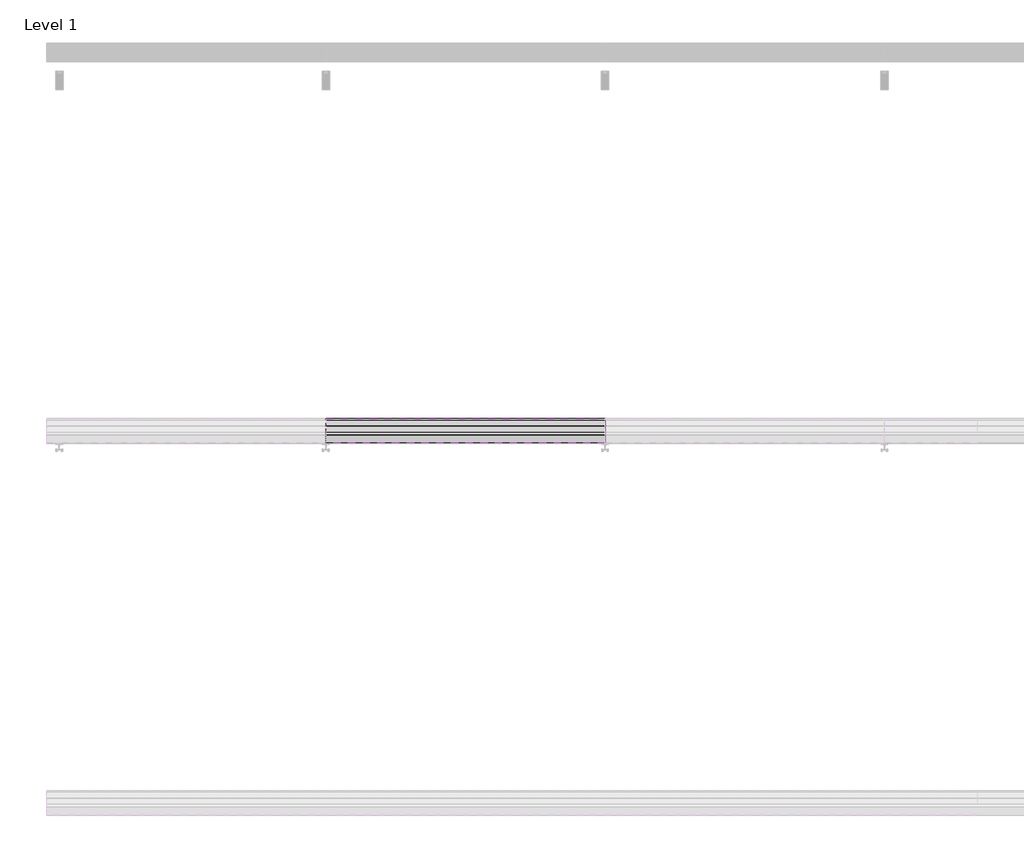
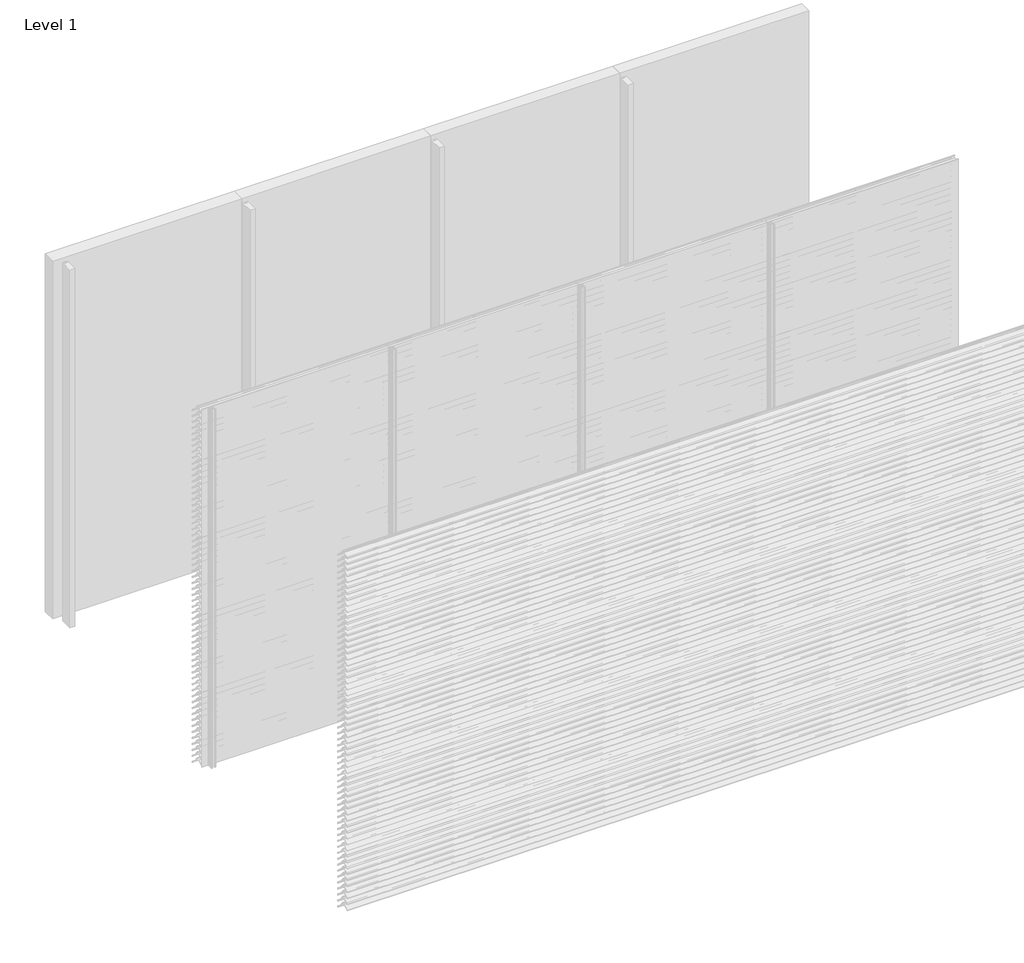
# One storey, part 46 of 173: 18 proxies.
"""IFC4 building model written with IfcOpenShell, lengths in millimetres."""

from ifc_helpers import new_model, si_unit, point, frame, frame_2d, origin, place, context, project, spatial, polyline, circle_curve, trimmed, segment, composite_curve, outline, extrude, element, save

model = new_model("IFC4")

# Units and contexts
model_context = context("Model", 3, world=origin())
ifc_project = project(units=[si_unit("LENGTHUNIT", "METRE", prefix="MILLI")], contexts=[model_context])

# Site, building, storey
site = spatial("IfcSite", under=ifc_project)
building = spatial("IfcBuilding", under=site)
storey = spatial("IfcBuildingStorey", under=building, Name="Level 1", Elevation=0.0)

# Proxies
placement = place(None, origin())
element("IfcBuildingElementProxy", 1, Name="Wall Sweeps", at=placement, inside=storey, context=model_context, shape_type="SweptSolid", body=[
    extrude(outline(composite_curve([segment(polyline([(-41998.0, 1359.1474905), (-41998.0, 1361.6227417)]), True, "CONTINUOUS"), segment(trimmed(circle_curve(frame_2d((-41951.2682172, 1316.2200208)), 65.1557103), [point((-41998.0, 1361.6227417))], [point((-41954.4014323, 1381.3003524))], False, "CARTESIAN"), True, "CONTINUOUS"), segment(polyline([(-41954.4014323, 1381.3003524), (-41934.8315836, 1381.3003524)]), True, "CONTINUOUS"), segment(trimmed(circle_curve(frame_2d((-41732.7329489, 1528.5533172)), 250.0545817), [point((-41934.8315836, 1381.3003524))], [point((-41941.4452143, 1390.8344583))], False, "CARTESIAN"), True, "CONTINUOUS"), segment(trimmed(circle_curve(frame_2d((-41953.2981792, 1385.1737835)), 13.1352966), [point((-41941.4452143, 1390.8344583))], [point((-41953.8171475, 1398.298824))], True, "CARTESIAN"), True, "CONTINUOUS"), segment(polyline([(-41953.8171475, 1398.298824), (-41953.8171475, 1400.0)]), True, "CONTINUOUS"), segment(trimmed(circle_curve(frame_2d((-41953.2981792, 1385.1737835)), 14.8352966), [point((-41953.8171475, 1400.0))], [point((-41939.9637661, 1391.6760487))], False, "CARTESIAN"), True, "CONTINUOUS"), segment(trimmed(circle_curve(frame_2d((-41732.7329489, 1528.5533172)), 248.3545817), [point((-41939.9637661, 1391.6760487))], [point((-41873.8787895, 1324.2059416))], True, "CARTESIAN"), True, "CONTINUOUS"), segment(trimmed(circle_curve(frame_2d((-41883.8147537, 1311.6649442)), 16.0), [point((-41873.8787895, 1324.2059416))], [point((-41867.8648347, 1310.4))], False, "CARTESIAN"), True, "CONTINUOUS"), segment(polyline([(-41867.8648347, 1310.4), (-41869.6712069, 1310.4)]), True, "CONTINUOUS"), segment(trimmed(circle_curve(frame_2d((-41883.8147537, 1311.6649442)), 14.2), [point((-41869.6712069, 1310.4))], [point((-41874.9518628, 1322.7594998))], True, "CARTESIAN"), True, "CONTINUOUS"), segment(trimmed(circle_curve(frame_2d((-41732.7329489, 1528.5533172)), 250.1545817), [point((-41874.9518628, 1322.7594998))], [point((-41933.7064024, 1379.6003524))], False, "CARTESIAN"), True, "CONTINUOUS"), segment(polyline([(-41933.7064024, 1379.6003524), (-41954.3602632, 1379.6003524)]), True, "CONTINUOUS"), segment(trimmed(circle_curve(frame_2d((-41951.2682172, 1316.2200208)), 63.4557103), [point((-41954.3602632, 1379.6003524))], [point((-41998.0, 1359.1474905))], True, "CARTESIAN"), True, "CONTINUOUS")], self_intersect=False)), frame((1500.0, 0.0, 0.0), z_axis=(1.0, 0.0, 0.0), x_axis=(0.0, 1.0, 0.0)), (0.0, 0.0, 1.0), 1500.0),
])
element("IfcBuildingElementProxy", 2, Name="Wall Sweeps", at=placement, inside=storey, context=model_context, shape_type="SweptSolid", body=[
    extrude(outline(composite_curve([segment(polyline([(-41998.0, 1309.1474905), (-41998.0, 1311.6227417)]), True, "CONTINUOUS"), segment(trimmed(circle_curve(frame_2d((-41951.2682172, 1266.2200208)), 65.1557103), [point((-41998.0, 1311.6227417))], [point((-41954.4014323, 1331.3003524))], False, "CARTESIAN"), True, "CONTINUOUS"), segment(polyline([(-41954.4014323, 1331.3003524), (-41934.8315836, 1331.3003524)]), True, "CONTINUOUS"), segment(trimmed(circle_curve(frame_2d((-41732.7329489, 1478.5533172)), 250.0545817), [point((-41934.8315836, 1331.3003524))], [point((-41941.4452143, 1340.8344583))], False, "CARTESIAN"), True, "CONTINUOUS"), segment(trimmed(circle_curve(frame_2d((-41953.2981792, 1335.1737835)), 13.1352966), [point((-41941.4452143, 1340.8344583))], [point((-41953.8171475, 1348.298824))], True, "CARTESIAN"), True, "CONTINUOUS"), segment(polyline([(-41953.8171475, 1348.298824), (-41953.8171475, 1350.0)]), True, "CONTINUOUS"), segment(trimmed(circle_curve(frame_2d((-41953.2981792, 1335.1737835)), 14.8352966), [point((-41953.8171475, 1350.0))], [point((-41939.9637661, 1341.6760487))], False, "CARTESIAN"), True, "CONTINUOUS"), segment(trimmed(circle_curve(frame_2d((-41732.7329489, 1478.5533172)), 248.3545817), [point((-41939.9637661, 1341.6760487))], [point((-41873.8787895, 1274.2059416))], True, "CARTESIAN"), True, "CONTINUOUS"), segment(trimmed(circle_curve(frame_2d((-41883.8147537, 1261.6649442)), 16.0), [point((-41873.8787895, 1274.2059416))], [point((-41867.8648347, 1260.4))], False, "CARTESIAN"), True, "CONTINUOUS"), segment(polyline([(-41867.8648347, 1260.4), (-41869.6712069, 1260.4)]), True, "CONTINUOUS"), segment(trimmed(circle_curve(frame_2d((-41883.8147537, 1261.6649442)), 14.2), [point((-41869.6712069, 1260.4))], [point((-41874.9518628, 1272.7594998))], True, "CARTESIAN"), True, "CONTINUOUS"), segment(trimmed(circle_curve(frame_2d((-41732.7329489, 1478.5533172)), 250.1545817), [point((-41874.9518628, 1272.7594998))], [point((-41933.7064024, 1329.6003524))], False, "CARTESIAN"), True, "CONTINUOUS"), segment(polyline([(-41933.7064024, 1329.6003524), (-41954.3602632, 1329.6003524)]), True, "CONTINUOUS"), segment(trimmed(circle_curve(frame_2d((-41951.2682172, 1266.2200208)), 63.4557103), [point((-41954.3602632, 1329.6003524))], [point((-41998.0, 1309.1474905))], True, "CARTESIAN"), True, "CONTINUOUS")], self_intersect=False)), frame((1500.0, 0.0, 0.0), z_axis=(1.0, 0.0, 0.0), x_axis=(0.0, 1.0, 0.0)), (0.0, 0.0, 1.0), 1500.0),
])
element("IfcBuildingElementProxy", 3, Name="Wall Sweeps", at=placement, inside=storey, context=model_context, shape_type="SweptSolid", body=[
    extrude(outline(composite_curve([segment(polyline([(-41998.0, 1259.1474905), (-41998.0, 1261.6227417)]), True, "CONTINUOUS"), segment(trimmed(circle_curve(frame_2d((-41951.2682172, 1216.2200208)), 65.1557103), [point((-41998.0, 1261.6227417))], [point((-41954.4014323, 1281.3003524))], False, "CARTESIAN"), True, "CONTINUOUS"), segment(polyline([(-41954.4014323, 1281.3003524), (-41934.8315836, 1281.3003524)]), True, "CONTINUOUS"), segment(trimmed(circle_curve(frame_2d((-41732.7329489, 1428.5533172)), 250.0545817), [point((-41934.8315836, 1281.3003524))], [point((-41941.4452143, 1290.8344583))], False, "CARTESIAN"), True, "CONTINUOUS"), segment(trimmed(circle_curve(frame_2d((-41953.2981792, 1285.1737835)), 13.1352966), [point((-41941.4452143, 1290.8344583))], [point((-41953.8171475, 1298.298824))], True, "CARTESIAN"), True, "CONTINUOUS"), segment(polyline([(-41953.8171475, 1298.298824), (-41953.8171475, 1300.0)]), True, "CONTINUOUS"), segment(trimmed(circle_curve(frame_2d((-41953.2981792, 1285.1737835)), 14.8352966), [point((-41953.8171475, 1300.0))], [point((-41939.9637661, 1291.6760487))], False, "CARTESIAN"), True, "CONTINUOUS"), segment(trimmed(circle_curve(frame_2d((-41732.7329489, 1428.5533172)), 248.3545817), [point((-41939.9637661, 1291.6760487))], [point((-41873.8787895, 1224.2059416))], True, "CARTESIAN"), True, "CONTINUOUS"), segment(trimmed(circle_curve(frame_2d((-41883.8147537, 1211.6649442)), 16.0), [point((-41873.8787895, 1224.2059416))], [point((-41867.8648347, 1210.4))], False, "CARTESIAN"), True, "CONTINUOUS"), segment(polyline([(-41867.8648347, 1210.4), (-41869.6712069, 1210.4)]), True, "CONTINUOUS"), segment(trimmed(circle_curve(frame_2d((-41883.8147537, 1211.6649442)), 14.2), [point((-41869.6712069, 1210.4))], [point((-41874.9518628, 1222.7594998))], True, "CARTESIAN"), True, "CONTINUOUS"), segment(trimmed(circle_curve(frame_2d((-41732.7329489, 1428.5533172)), 250.1545817), [point((-41874.9518628, 1222.7594998))], [point((-41933.7064024, 1279.6003524))], False, "CARTESIAN"), True, "CONTINUOUS"), segment(polyline([(-41933.7064024, 1279.6003524), (-41954.3602632, 1279.6003524)]), True, "CONTINUOUS"), segment(trimmed(circle_curve(frame_2d((-41951.2682172, 1216.2200208)), 63.4557103), [point((-41954.3602632, 1279.6003524))], [point((-41998.0, 1259.1474905))], True, "CARTESIAN"), True, "CONTINUOUS")], self_intersect=False)), frame((1500.0, 0.0, 0.0), z_axis=(1.0, 0.0, 0.0), x_axis=(0.0, 1.0, 0.0)), (0.0, 0.0, 1.0), 1500.0),
])
element("IfcBuildingElementProxy", 4, Name="Wall Sweeps", at=placement, inside=storey, context=model_context, shape_type="SweptSolid", body=[
    extrude(outline(composite_curve([segment(polyline([(-41998.0, 1209.1474905), (-41998.0, 1211.6227417)]), True, "CONTINUOUS"), segment(trimmed(circle_curve(frame_2d((-41951.2682172, 1166.2200208)), 65.1557103), [point((-41998.0, 1211.6227417))], [point((-41954.4014323, 1231.3003524))], False, "CARTESIAN"), True, "CONTINUOUS"), segment(polyline([(-41954.4014323, 1231.3003524), (-41934.8315836, 1231.3003524)]), True, "CONTINUOUS"), segment(trimmed(circle_curve(frame_2d((-41732.7329489, 1378.5533172)), 250.0545817), [point((-41934.8315836, 1231.3003524))], [point((-41941.4452143, 1240.8344583))], False, "CARTESIAN"), True, "CONTINUOUS"), segment(trimmed(circle_curve(frame_2d((-41953.2981792, 1235.1737835)), 13.1352966), [point((-41941.4452143, 1240.8344583))], [point((-41953.8171475, 1248.298824))], True, "CARTESIAN"), True, "CONTINUOUS"), segment(polyline([(-41953.8171475, 1248.298824), (-41953.8171475, 1250.0)]), True, "CONTINUOUS"), segment(trimmed(circle_curve(frame_2d((-41953.2981792, 1235.1737835)), 14.8352966), [point((-41953.8171475, 1250.0))], [point((-41939.9637661, 1241.6760487))], False, "CARTESIAN"), True, "CONTINUOUS"), segment(trimmed(circle_curve(frame_2d((-41732.7329489, 1378.5533172)), 248.3545817), [point((-41939.9637661, 1241.6760487))], [point((-41873.8787895, 1174.2059416))], True, "CARTESIAN"), True, "CONTINUOUS"), segment(trimmed(circle_curve(frame_2d((-41883.8147537, 1161.6649442)), 16.0), [point((-41873.8787895, 1174.2059416))], [point((-41867.8648347, 1160.4))], False, "CARTESIAN"), True, "CONTINUOUS"), segment(polyline([(-41867.8648347, 1160.4), (-41869.6712069, 1160.4)]), True, "CONTINUOUS"), segment(trimmed(circle_curve(frame_2d((-41883.8147537, 1161.6649442)), 14.2), [point((-41869.6712069, 1160.4))], [point((-41874.9518628, 1172.7594998))], True, "CARTESIAN"), True, "CONTINUOUS"), segment(trimmed(circle_curve(frame_2d((-41732.7329489, 1378.5533172)), 250.1545817), [point((-41874.9518628, 1172.7594998))], [point((-41933.7064024, 1229.6003524))], False, "CARTESIAN"), True, "CONTINUOUS"), segment(polyline([(-41933.7064024, 1229.6003524), (-41954.3602632, 1229.6003524)]), True, "CONTINUOUS"), segment(trimmed(circle_curve(frame_2d((-41951.2682172, 1166.2200208)), 63.4557103), [point((-41954.3602632, 1229.6003524))], [point((-41998.0, 1209.1474905))], True, "CARTESIAN"), True, "CONTINUOUS")], self_intersect=False)), frame((1500.0, 0.0, 0.0), z_axis=(1.0, 0.0, 0.0), x_axis=(0.0, 1.0, 0.0)), (0.0, 0.0, 1.0), 1500.0),
])
element("IfcBuildingElementProxy", 5, Name="Wall Sweeps", at=placement, inside=storey, context=model_context, shape_type="SweptSolid", body=[
    extrude(outline(composite_curve([segment(polyline([(-41998.0, 1159.1474905), (-41998.0, 1161.6227417)]), True, "CONTINUOUS"), segment(trimmed(circle_curve(frame_2d((-41951.2682172, 1116.2200208)), 65.1557103), [point((-41998.0, 1161.6227417))], [point((-41954.4014323, 1181.3003524))], False, "CARTESIAN"), True, "CONTINUOUS"), segment(polyline([(-41954.4014323, 1181.3003524), (-41934.8315836, 1181.3003524)]), True, "CONTINUOUS"), segment(trimmed(circle_curve(frame_2d((-41732.7329489, 1328.5533172)), 250.0545817), [point((-41934.8315836, 1181.3003524))], [point((-41941.4452143, 1190.8344583))], False, "CARTESIAN"), True, "CONTINUOUS"), segment(trimmed(circle_curve(frame_2d((-41953.2981792, 1185.1737835)), 13.1352966), [point((-41941.4452143, 1190.8344583))], [point((-41953.8171475, 1198.298824))], True, "CARTESIAN"), True, "CONTINUOUS"), segment(polyline([(-41953.8171475, 1198.298824), (-41953.8171475, 1200.0)]), True, "CONTINUOUS"), segment(trimmed(circle_curve(frame_2d((-41953.2981792, 1185.1737835)), 14.8352966), [point((-41953.8171475, 1200.0))], [point((-41939.9637661, 1191.6760487))], False, "CARTESIAN"), True, "CONTINUOUS"), segment(trimmed(circle_curve(frame_2d((-41732.7329489, 1328.5533172)), 248.3545817), [point((-41939.9637661, 1191.6760487))], [point((-41873.8787895, 1124.2059416))], True, "CARTESIAN"), True, "CONTINUOUS"), segment(trimmed(circle_curve(frame_2d((-41883.8147537, 1111.6649442)), 16.0), [point((-41873.8787895, 1124.2059416))], [point((-41867.8648347, 1110.4))], False, "CARTESIAN"), True, "CONTINUOUS"), segment(polyline([(-41867.8648347, 1110.4), (-41869.6712069, 1110.4)]), True, "CONTINUOUS"), segment(trimmed(circle_curve(frame_2d((-41883.8147537, 1111.6649442)), 14.2), [point((-41869.6712069, 1110.4))], [point((-41874.9518628, 1122.7594998))], True, "CARTESIAN"), True, "CONTINUOUS"), segment(trimmed(circle_curve(frame_2d((-41732.7329489, 1328.5533172)), 250.1545817), [point((-41874.9518628, 1122.7594998))], [point((-41933.7064024, 1179.6003524))], False, "CARTESIAN"), True, "CONTINUOUS"), segment(polyline([(-41933.7064024, 1179.6003524), (-41954.3602632, 1179.6003524)]), True, "CONTINUOUS"), segment(trimmed(circle_curve(frame_2d((-41951.2682172, 1116.2200208)), 63.4557103), [point((-41954.3602632, 1179.6003524))], [point((-41998.0, 1159.1474905))], True, "CARTESIAN"), True, "CONTINUOUS")], self_intersect=False)), frame((1500.0, 0.0, 0.0), z_axis=(1.0, 0.0, 0.0), x_axis=(0.0, 1.0, 0.0)), (0.0, 0.0, 1.0), 1500.0),
])
element("IfcBuildingElementProxy", 6, Name="Wall Sweeps", at=placement, inside=storey, context=model_context, shape_type="SweptSolid", body=[
    extrude(outline(composite_curve([segment(polyline([(-41998.0, 1109.1474905), (-41998.0, 1111.6227417)]), True, "CONTINUOUS"), segment(trimmed(circle_curve(frame_2d((-41951.2682172, 1066.2200208)), 65.1557103), [point((-41998.0, 1111.6227417))], [point((-41954.4014323, 1131.3003524))], False, "CARTESIAN"), True, "CONTINUOUS"), segment(polyline([(-41954.4014323, 1131.3003524), (-41934.8315836, 1131.3003524)]), True, "CONTINUOUS"), segment(trimmed(circle_curve(frame_2d((-41732.7329489, 1278.5533172)), 250.0545817), [point((-41934.8315836, 1131.3003524))], [point((-41941.4452143, 1140.8344583))], False, "CARTESIAN"), True, "CONTINUOUS"), segment(trimmed(circle_curve(frame_2d((-41953.2981792, 1135.1737835)), 13.1352966), [point((-41941.4452143, 1140.8344583))], [point((-41953.8171475, 1148.298824))], True, "CARTESIAN"), True, "CONTINUOUS"), segment(polyline([(-41953.8171475, 1148.298824), (-41953.8171475, 1150.0)]), True, "CONTINUOUS"), segment(trimmed(circle_curve(frame_2d((-41953.2981792, 1135.1737835)), 14.8352966), [point((-41953.8171475, 1150.0))], [point((-41939.9637661, 1141.6760487))], False, "CARTESIAN"), True, "CONTINUOUS"), segment(trimmed(circle_curve(frame_2d((-41732.7329489, 1278.5533172)), 248.3545817), [point((-41939.9637661, 1141.6760487))], [point((-41873.8787895, 1074.2059416))], True, "CARTESIAN"), True, "CONTINUOUS"), segment(trimmed(circle_curve(frame_2d((-41883.8147537, 1061.6649442)), 16.0), [point((-41873.8787895, 1074.2059416))], [point((-41867.8648347, 1060.4))], False, "CARTESIAN"), True, "CONTINUOUS"), segment(polyline([(-41867.8648347, 1060.4), (-41869.6712069, 1060.4)]), True, "CONTINUOUS"), segment(trimmed(circle_curve(frame_2d((-41883.8147537, 1061.6649442)), 14.2), [point((-41869.6712069, 1060.4))], [point((-41874.9518628, 1072.7594998))], True, "CARTESIAN"), True, "CONTINUOUS"), segment(trimmed(circle_curve(frame_2d((-41732.7329489, 1278.5533172)), 250.1545817), [point((-41874.9518628, 1072.7594998))], [point((-41933.7064024, 1129.6003524))], False, "CARTESIAN"), True, "CONTINUOUS"), segment(polyline([(-41933.7064024, 1129.6003524), (-41954.3602632, 1129.6003524)]), True, "CONTINUOUS"), segment(trimmed(circle_curve(frame_2d((-41951.2682172, 1066.2200208)), 63.4557103), [point((-41954.3602632, 1129.6003524))], [point((-41998.0, 1109.1474905))], True, "CARTESIAN"), True, "CONTINUOUS")], self_intersect=False)), frame((1500.0, 0.0, 0.0), z_axis=(1.0, 0.0, 0.0), x_axis=(0.0, 1.0, 0.0)), (0.0, 0.0, 1.0), 1500.0),
])
element("IfcBuildingElementProxy", 7, Name="Wall Sweeps", at=placement, inside=storey, context=model_context, shape_type="SweptSolid", body=[
    extrude(outline(composite_curve([segment(polyline([(-41998.0, 1059.1474905), (-41998.0, 1061.6227417)]), True, "CONTINUOUS"), segment(trimmed(circle_curve(frame_2d((-41951.2682172, 1016.2200208)), 65.1557103), [point((-41998.0, 1061.6227417))], [point((-41954.4014323, 1081.3003524))], False, "CARTESIAN"), True, "CONTINUOUS"), segment(polyline([(-41954.4014323, 1081.3003524), (-41934.8315836, 1081.3003524)]), True, "CONTINUOUS"), segment(trimmed(circle_curve(frame_2d((-41732.7329489, 1228.5533172)), 250.0545817), [point((-41934.8315836, 1081.3003524))], [point((-41941.4452143, 1090.8344583))], False, "CARTESIAN"), True, "CONTINUOUS"), segment(trimmed(circle_curve(frame_2d((-41953.2981792, 1085.1737835)), 13.1352966), [point((-41941.4452143, 1090.8344583))], [point((-41953.8171475, 1098.298824))], True, "CARTESIAN"), True, "CONTINUOUS"), segment(polyline([(-41953.8171475, 1098.298824), (-41953.8171475, 1100.0)]), True, "CONTINUOUS"), segment(trimmed(circle_curve(frame_2d((-41953.2981792, 1085.1737835)), 14.8352966), [point((-41953.8171475, 1100.0))], [point((-41939.9637661, 1091.6760487))], False, "CARTESIAN"), True, "CONTINUOUS"), segment(trimmed(circle_curve(frame_2d((-41732.7329489, 1228.5533172)), 248.3545817), [point((-41939.9637661, 1091.6760487))], [point((-41873.8787895, 1024.2059416))], True, "CARTESIAN"), True, "CONTINUOUS"), segment(trimmed(circle_curve(frame_2d((-41883.8147537, 1011.6649442)), 16.0), [point((-41873.8787895, 1024.2059416))], [point((-41867.8648347, 1010.4))], False, "CARTESIAN"), True, "CONTINUOUS"), segment(polyline([(-41867.8648347, 1010.4), (-41869.6712069, 1010.4)]), True, "CONTINUOUS"), segment(trimmed(circle_curve(frame_2d((-41883.8147537, 1011.6649442)), 14.2), [point((-41869.6712069, 1010.4))], [point((-41874.9518628, 1022.7594998))], True, "CARTESIAN"), True, "CONTINUOUS"), segment(trimmed(circle_curve(frame_2d((-41732.7329489, 1228.5533172)), 250.1545817), [point((-41874.9518628, 1022.7594998))], [point((-41933.7064024, 1079.6003524))], False, "CARTESIAN"), True, "CONTINUOUS"), segment(polyline([(-41933.7064024, 1079.6003524), (-41954.3602632, 1079.6003524)]), True, "CONTINUOUS"), segment(trimmed(circle_curve(frame_2d((-41951.2682172, 1016.2200208)), 63.4557103), [point((-41954.3602632, 1079.6003524))], [point((-41998.0, 1059.1474905))], True, "CARTESIAN"), True, "CONTINUOUS")], self_intersect=False)), frame((1500.0, 0.0, 0.0), z_axis=(1.0, 0.0, 0.0), x_axis=(0.0, 1.0, 0.0)), (0.0, 0.0, 1.0), 1500.0),
])
element("IfcBuildingElementProxy", 8, Name="Wall Sweeps", at=placement, inside=storey, context=model_context, shape_type="SweptSolid", body=[
    extrude(outline(composite_curve([segment(polyline([(-41998.0, 1009.1474905), (-41998.0, 1011.6227417)]), True, "CONTINUOUS"), segment(trimmed(circle_curve(frame_2d((-41951.2682172, 966.2200208)), 65.1557103), [point((-41998.0, 1011.6227417))], [point((-41954.4014323, 1031.3003524))], False, "CARTESIAN"), True, "CONTINUOUS"), segment(polyline([(-41954.4014323, 1031.3003524), (-41934.8315836, 1031.3003524)]), True, "CONTINUOUS"), segment(trimmed(circle_curve(frame_2d((-41732.7329489, 1178.5533172)), 250.0545817), [point((-41934.8315836, 1031.3003524))], [point((-41941.4452143, 1040.8344583))], False, "CARTESIAN"), True, "CONTINUOUS"), segment(trimmed(circle_curve(frame_2d((-41953.2981792, 1035.1737835)), 13.1352966), [point((-41941.4452143, 1040.8344583))], [point((-41953.8171475, 1048.298824))], True, "CARTESIAN"), True, "CONTINUOUS"), segment(polyline([(-41953.8171475, 1048.298824), (-41953.8171475, 1050.0)]), True, "CONTINUOUS"), segment(trimmed(circle_curve(frame_2d((-41953.2981792, 1035.1737835)), 14.8352966), [point((-41953.8171475, 1050.0))], [point((-41939.9637661, 1041.6760487))], False, "CARTESIAN"), True, "CONTINUOUS"), segment(trimmed(circle_curve(frame_2d((-41732.7329489, 1178.5533172)), 248.3545817), [point((-41939.9637661, 1041.6760487))], [point((-41873.8787895, 974.2059416))], True, "CARTESIAN"), True, "CONTINUOUS"), segment(trimmed(circle_curve(frame_2d((-41883.8147537, 961.6649442)), 16.0), [point((-41873.8787895, 974.2059416))], [point((-41867.8648347, 960.4))], False, "CARTESIAN"), True, "CONTINUOUS"), segment(polyline([(-41867.8648347, 960.4), (-41869.6712069, 960.4)]), True, "CONTINUOUS"), segment(trimmed(circle_curve(frame_2d((-41883.8147537, 961.6649442)), 14.2), [point((-41869.6712069, 960.4))], [point((-41874.9518628, 972.7594998))], True, "CARTESIAN"), True, "CONTINUOUS"), segment(trimmed(circle_curve(frame_2d((-41732.7329489, 1178.5533172)), 250.1545817), [point((-41874.9518628, 972.7594998))], [point((-41933.7064024, 1029.6003524))], False, "CARTESIAN"), True, "CONTINUOUS"), segment(polyline([(-41933.7064024, 1029.6003524), (-41954.3602632, 1029.6003524)]), True, "CONTINUOUS"), segment(trimmed(circle_curve(frame_2d((-41951.2682172, 966.2200208)), 63.4557103), [point((-41954.3602632, 1029.6003524))], [point((-41998.0, 1009.1474905))], True, "CARTESIAN"), True, "CONTINUOUS")], self_intersect=False)), frame((1500.0, 0.0, 0.0), z_axis=(1.0, 0.0, 0.0), x_axis=(0.0, 1.0, 0.0)), (0.0, 0.0, 1.0), 1500.0),
])
element("IfcBuildingElementProxy", 9, Name="Wall Sweeps", at=placement, inside=storey, context=model_context, shape_type="SweptSolid", body=[
    extrude(outline(composite_curve([segment(polyline([(-41998.0, 959.1474905), (-41998.0, 961.6227417)]), True, "CONTINUOUS"), segment(trimmed(circle_curve(frame_2d((-41951.2682172, 916.2200208)), 65.1557103), [point((-41998.0, 961.6227417))], [point((-41954.4014323, 981.3003524))], False, "CARTESIAN"), True, "CONTINUOUS"), segment(polyline([(-41954.4014323, 981.3003524), (-41934.8315836, 981.3003524)]), True, "CONTINUOUS"), segment(trimmed(circle_curve(frame_2d((-41732.7329489, 1128.5533172)), 250.0545817), [point((-41934.8315836, 981.3003524))], [point((-41941.4452143, 990.8344583))], False, "CARTESIAN"), True, "CONTINUOUS"), segment(trimmed(circle_curve(frame_2d((-41953.2981792, 985.1737835)), 13.1352966), [point((-41941.4452143, 990.8344583))], [point((-41953.8171475, 998.298824))], True, "CARTESIAN"), True, "CONTINUOUS"), segment(polyline([(-41953.8171475, 998.298824), (-41953.8171475, 1000.0)]), True, "CONTINUOUS"), segment(trimmed(circle_curve(frame_2d((-41953.2981792, 985.1737835)), 14.8352966), [point((-41953.8171475, 1000.0))], [point((-41939.9637661, 991.6760487))], False, "CARTESIAN"), True, "CONTINUOUS"), segment(trimmed(circle_curve(frame_2d((-41732.7329489, 1128.5533172)), 248.3545817), [point((-41939.9637661, 991.6760487))], [point((-41873.8787895, 924.2059416))], True, "CARTESIAN"), True, "CONTINUOUS"), segment(trimmed(circle_curve(frame_2d((-41883.8147537, 911.6649442)), 16.0), [point((-41873.8787895, 924.2059416))], [point((-41867.8648347, 910.4))], False, "CARTESIAN"), True, "CONTINUOUS"), segment(polyline([(-41867.8648347, 910.4), (-41869.6712069, 910.4)]), True, "CONTINUOUS"), segment(trimmed(circle_curve(frame_2d((-41883.8147537, 911.6649442)), 14.2), [point((-41869.6712069, 910.4))], [point((-41874.9518628, 922.7594998))], True, "CARTESIAN"), True, "CONTINUOUS"), segment(trimmed(circle_curve(frame_2d((-41732.7329489, 1128.5533172)), 250.1545817), [point((-41874.9518628, 922.7594998))], [point((-41933.7064024, 979.6003524))], False, "CARTESIAN"), True, "CONTINUOUS"), segment(polyline([(-41933.7064024, 979.6003524), (-41954.3602632, 979.6003524)]), True, "CONTINUOUS"), segment(trimmed(circle_curve(frame_2d((-41951.2682172, 916.2200208)), 63.4557103), [point((-41954.3602632, 979.6003524))], [point((-41998.0, 959.1474905))], True, "CARTESIAN"), True, "CONTINUOUS")], self_intersect=False)), frame((1500.0, 0.0, 0.0), z_axis=(1.0, 0.0, 0.0), x_axis=(0.0, 1.0, 0.0)), (0.0, 0.0, 1.0), 1500.0),
])
element("IfcBuildingElementProxy", 10, Name="Wall Sweeps", at=placement, inside=storey, context=model_context, shape_type="SweptSolid", body=[
    extrude(outline(composite_curve([segment(polyline([(-41998.0, 909.1474905), (-41998.0, 911.6227417)]), True, "CONTINUOUS"), segment(trimmed(circle_curve(frame_2d((-41951.2682172, 866.2200208)), 65.1557103), [point((-41998.0, 911.6227417))], [point((-41954.4014323, 931.3003524))], False, "CARTESIAN"), True, "CONTINUOUS"), segment(polyline([(-41954.4014323, 931.3003524), (-41934.8315836, 931.3003524)]), True, "CONTINUOUS"), segment(trimmed(circle_curve(frame_2d((-41732.7329489, 1078.5533172)), 250.0545817), [point((-41934.8315836, 931.3003524))], [point((-41941.4452143, 940.8344583))], False, "CARTESIAN"), True, "CONTINUOUS"), segment(trimmed(circle_curve(frame_2d((-41953.2981792, 935.1737835)), 13.1352966), [point((-41941.4452143, 940.8344583))], [point((-41953.8171475, 948.298824))], True, "CARTESIAN"), True, "CONTINUOUS"), segment(polyline([(-41953.8171475, 948.298824), (-41953.8171475, 950.0)]), True, "CONTINUOUS"), segment(trimmed(circle_curve(frame_2d((-41953.2981792, 935.1737835)), 14.8352966), [point((-41953.8171475, 950.0))], [point((-41939.9637661, 941.6760487))], False, "CARTESIAN"), True, "CONTINUOUS"), segment(trimmed(circle_curve(frame_2d((-41732.7329489, 1078.5533172)), 248.3545817), [point((-41939.9637661, 941.6760487))], [point((-41873.8787895, 874.2059416))], True, "CARTESIAN"), True, "CONTINUOUS"), segment(trimmed(circle_curve(frame_2d((-41883.8147537, 861.6649442)), 16.0), [point((-41873.8787895, 874.2059416))], [point((-41867.8648347, 860.4))], False, "CARTESIAN"), True, "CONTINUOUS"), segment(polyline([(-41867.8648347, 860.4), (-41869.6712069, 860.4)]), True, "CONTINUOUS"), segment(trimmed(circle_curve(frame_2d((-41883.8147537, 861.6649442)), 14.2), [point((-41869.6712069, 860.4))], [point((-41874.9518628, 872.7594998))], True, "CARTESIAN"), True, "CONTINUOUS"), segment(trimmed(circle_curve(frame_2d((-41732.7329489, 1078.5533172)), 250.1545817), [point((-41874.9518628, 872.7594998))], [point((-41933.7064024, 929.6003524))], False, "CARTESIAN"), True, "CONTINUOUS"), segment(polyline([(-41933.7064024, 929.6003524), (-41954.3602632, 929.6003524)]), True, "CONTINUOUS"), segment(trimmed(circle_curve(frame_2d((-41951.2682172, 866.2200208)), 63.4557103), [point((-41954.3602632, 929.6003524))], [point((-41998.0, 909.1474905))], True, "CARTESIAN"), True, "CONTINUOUS")], self_intersect=False)), frame((1500.0, 0.0, 0.0), z_axis=(1.0, 0.0, 0.0), x_axis=(0.0, 1.0, 0.0)), (0.0, 0.0, 1.0), 1500.0),
])
element("IfcBuildingElementProxy", 11, Name="Wall Sweeps", at=placement, inside=storey, context=model_context, shape_type="SweptSolid", body=[
    extrude(outline(composite_curve([segment(polyline([(-41998.0, 859.1474905), (-41998.0, 861.6227417)]), True, "CONTINUOUS"), segment(trimmed(circle_curve(frame_2d((-41951.2682172, 816.2200208)), 65.1557103), [point((-41998.0, 861.6227417))], [point((-41954.4014323, 881.3003524))], False, "CARTESIAN"), True, "CONTINUOUS"), segment(polyline([(-41954.4014323, 881.3003524), (-41934.8315836, 881.3003524)]), True, "CONTINUOUS"), segment(trimmed(circle_curve(frame_2d((-41732.7329489, 1028.5533172)), 250.0545817), [point((-41934.8315836, 881.3003524))], [point((-41941.4452143, 890.8344583))], False, "CARTESIAN"), True, "CONTINUOUS"), segment(trimmed(circle_curve(frame_2d((-41953.2981792, 885.1737835)), 13.1352966), [point((-41941.4452143, 890.8344583))], [point((-41953.8171475, 898.298824))], True, "CARTESIAN"), True, "CONTINUOUS"), segment(polyline([(-41953.8171475, 898.298824), (-41953.8171475, 900.0)]), True, "CONTINUOUS"), segment(trimmed(circle_curve(frame_2d((-41953.2981792, 885.1737835)), 14.8352966), [point((-41953.8171475, 900.0))], [point((-41939.9637661, 891.6760487))], False, "CARTESIAN"), True, "CONTINUOUS"), segment(trimmed(circle_curve(frame_2d((-41732.7329489, 1028.5533172)), 248.3545817), [point((-41939.9637661, 891.6760487))], [point((-41873.8787895, 824.2059416))], True, "CARTESIAN"), True, "CONTINUOUS"), segment(trimmed(circle_curve(frame_2d((-41883.8147537, 811.6649442)), 16.0), [point((-41873.8787895, 824.2059416))], [point((-41867.8648347, 810.4))], False, "CARTESIAN"), True, "CONTINUOUS"), segment(polyline([(-41867.8648347, 810.4), (-41869.6712069, 810.4)]), True, "CONTINUOUS"), segment(trimmed(circle_curve(frame_2d((-41883.8147537, 811.6649442)), 14.2), [point((-41869.6712069, 810.4))], [point((-41874.9518628, 822.7594998))], True, "CARTESIAN"), True, "CONTINUOUS"), segment(trimmed(circle_curve(frame_2d((-41732.7329489, 1028.5533172)), 250.1545817), [point((-41874.9518628, 822.7594998))], [point((-41933.7064024, 879.6003524))], False, "CARTESIAN"), True, "CONTINUOUS"), segment(polyline([(-41933.7064024, 879.6003524), (-41954.3602632, 879.6003524)]), True, "CONTINUOUS"), segment(trimmed(circle_curve(frame_2d((-41951.2682172, 816.2200208)), 63.4557103), [point((-41954.3602632, 879.6003524))], [point((-41998.0, 859.1474905))], True, "CARTESIAN"), True, "CONTINUOUS")], self_intersect=False)), frame((1500.0, 0.0, 0.0), z_axis=(1.0, 0.0, 0.0), x_axis=(0.0, 1.0, 0.0)), (0.0, 0.0, 1.0), 1500.0),
])
element("IfcBuildingElementProxy", 12, Name="Wall Sweeps", at=placement, inside=storey, context=model_context, shape_type="SweptSolid", body=[
    extrude(outline(composite_curve([segment(polyline([(-41998.0, 809.1474905), (-41998.0, 811.6227417)]), True, "CONTINUOUS"), segment(trimmed(circle_curve(frame_2d((-41951.2682172, 766.2200208)), 65.1557103), [point((-41998.0, 811.6227417))], [point((-41954.4014323, 831.3003524))], False, "CARTESIAN"), True, "CONTINUOUS"), segment(polyline([(-41954.4014323, 831.3003524), (-41934.8315836, 831.3003524)]), True, "CONTINUOUS"), segment(trimmed(circle_curve(frame_2d((-41732.7329489, 978.5533172)), 250.0545817), [point((-41934.8315836, 831.3003524))], [point((-41941.4452143, 840.8344583))], False, "CARTESIAN"), True, "CONTINUOUS"), segment(trimmed(circle_curve(frame_2d((-41953.2981792, 835.1737835)), 13.1352966), [point((-41941.4452143, 840.8344583))], [point((-41953.8171475, 848.298824))], True, "CARTESIAN"), True, "CONTINUOUS"), segment(polyline([(-41953.8171475, 848.298824), (-41953.8171475, 850.0)]), True, "CONTINUOUS"), segment(trimmed(circle_curve(frame_2d((-41953.2981792, 835.1737835)), 14.8352966), [point((-41953.8171475, 850.0))], [point((-41939.9637661, 841.6760487))], False, "CARTESIAN"), True, "CONTINUOUS"), segment(trimmed(circle_curve(frame_2d((-41732.7329489, 978.5533172)), 248.3545817), [point((-41939.9637661, 841.6760487))], [point((-41873.8787895, 774.2059416))], True, "CARTESIAN"), True, "CONTINUOUS"), segment(trimmed(circle_curve(frame_2d((-41883.8147537, 761.6649442)), 16.0), [point((-41873.8787895, 774.2059416))], [point((-41867.8648347, 760.4))], False, "CARTESIAN"), True, "CONTINUOUS"), segment(polyline([(-41867.8648347, 760.4), (-41869.6712069, 760.4)]), True, "CONTINUOUS"), segment(trimmed(circle_curve(frame_2d((-41883.8147537, 761.6649442)), 14.2), [point((-41869.6712069, 760.4))], [point((-41874.9518628, 772.7594998))], True, "CARTESIAN"), True, "CONTINUOUS"), segment(trimmed(circle_curve(frame_2d((-41732.7329489, 978.5533172)), 250.1545817), [point((-41874.9518628, 772.7594998))], [point((-41933.7064024, 829.6003524))], False, "CARTESIAN"), True, "CONTINUOUS"), segment(polyline([(-41933.7064024, 829.6003524), (-41954.3602632, 829.6003524)]), True, "CONTINUOUS"), segment(trimmed(circle_curve(frame_2d((-41951.2682172, 766.2200208)), 63.4557103), [point((-41954.3602632, 829.6003524))], [point((-41998.0, 809.1474905))], True, "CARTESIAN"), True, "CONTINUOUS")], self_intersect=False)), frame((1500.0, 0.0, 0.0), z_axis=(1.0, 0.0, 0.0), x_axis=(0.0, 1.0, 0.0)), (0.0, 0.0, 1.0), 1500.0),
])
element("IfcBuildingElementProxy", 13, Name="Wall Sweeps", at=placement, inside=storey, context=model_context, shape_type="SweptSolid", body=[
    extrude(outline(composite_curve([segment(polyline([(-41998.0, 759.1474905), (-41998.0, 761.6227417)]), True, "CONTINUOUS"), segment(trimmed(circle_curve(frame_2d((-41951.2682172, 716.2200208)), 65.1557103), [point((-41998.0, 761.6227417))], [point((-41954.4014323, 781.3003524))], False, "CARTESIAN"), True, "CONTINUOUS"), segment(polyline([(-41954.4014323, 781.3003524), (-41934.8315836, 781.3003524)]), True, "CONTINUOUS"), segment(trimmed(circle_curve(frame_2d((-41732.7329489, 928.5533172)), 250.0545817), [point((-41934.8315836, 781.3003524))], [point((-41941.4452143, 790.8344583))], False, "CARTESIAN"), True, "CONTINUOUS"), segment(trimmed(circle_curve(frame_2d((-41953.2981792, 785.1737835)), 13.1352966), [point((-41941.4452143, 790.8344583))], [point((-41953.8171475, 798.298824))], True, "CARTESIAN"), True, "CONTINUOUS"), segment(polyline([(-41953.8171475, 798.298824), (-41953.8171475, 800.0)]), True, "CONTINUOUS"), segment(trimmed(circle_curve(frame_2d((-41953.2981792, 785.1737835)), 14.8352966), [point((-41953.8171475, 800.0))], [point((-41939.9637661, 791.6760487))], False, "CARTESIAN"), True, "CONTINUOUS"), segment(trimmed(circle_curve(frame_2d((-41732.7329489, 928.5533172)), 248.3545817), [point((-41939.9637661, 791.6760487))], [point((-41873.8787895, 724.2059416))], True, "CARTESIAN"), True, "CONTINUOUS"), segment(trimmed(circle_curve(frame_2d((-41883.8147537, 711.6649442)), 16.0), [point((-41873.8787895, 724.2059416))], [point((-41867.8648347, 710.4))], False, "CARTESIAN"), True, "CONTINUOUS"), segment(polyline([(-41867.8648347, 710.4), (-41869.6712069, 710.4)]), True, "CONTINUOUS"), segment(trimmed(circle_curve(frame_2d((-41883.8147537, 711.6649442)), 14.2), [point((-41869.6712069, 710.4))], [point((-41874.9518628, 722.7594998))], True, "CARTESIAN"), True, "CONTINUOUS"), segment(trimmed(circle_curve(frame_2d((-41732.7329489, 928.5533172)), 250.1545817), [point((-41874.9518628, 722.7594998))], [point((-41933.7064024, 779.6003524))], False, "CARTESIAN"), True, "CONTINUOUS"), segment(polyline([(-41933.7064024, 779.6003524), (-41954.3602632, 779.6003524)]), True, "CONTINUOUS"), segment(trimmed(circle_curve(frame_2d((-41951.2682172, 716.2200208)), 63.4557103), [point((-41954.3602632, 779.6003524))], [point((-41998.0, 759.1474905))], True, "CARTESIAN"), True, "CONTINUOUS")], self_intersect=False)), frame((1500.0, 0.0, 0.0), z_axis=(1.0, 0.0, 0.0), x_axis=(0.0, 1.0, 0.0)), (0.0, 0.0, 1.0), 1500.0),
])
element("IfcBuildingElementProxy", 14, Name="Wall Sweeps", at=placement, inside=storey, context=model_context, shape_type="SweptSolid", body=[
    extrude(outline(composite_curve([segment(polyline([(-41998.0, 709.1474905), (-41998.0, 711.6227417)]), True, "CONTINUOUS"), segment(trimmed(circle_curve(frame_2d((-41951.2682172, 666.2200208)), 65.1557103), [point((-41998.0, 711.6227417))], [point((-41954.4014323, 731.3003524))], False, "CARTESIAN"), True, "CONTINUOUS"), segment(polyline([(-41954.4014323, 731.3003524), (-41934.8315836, 731.3003524)]), True, "CONTINUOUS"), segment(trimmed(circle_curve(frame_2d((-41732.7329489, 878.5533172)), 250.0545817), [point((-41934.8315836, 731.3003524))], [point((-41941.4452143, 740.8344583))], False, "CARTESIAN"), True, "CONTINUOUS"), segment(trimmed(circle_curve(frame_2d((-41953.2981792, 735.1737835)), 13.1352966), [point((-41941.4452143, 740.8344583))], [point((-41953.8171475, 748.298824))], True, "CARTESIAN"), True, "CONTINUOUS"), segment(polyline([(-41953.8171475, 748.298824), (-41953.8171475, 750.0)]), True, "CONTINUOUS"), segment(trimmed(circle_curve(frame_2d((-41953.2981792, 735.1737835)), 14.8352966), [point((-41953.8171475, 750.0))], [point((-41939.9637661, 741.6760487))], False, "CARTESIAN"), True, "CONTINUOUS"), segment(trimmed(circle_curve(frame_2d((-41732.7329489, 878.5533172)), 248.3545817), [point((-41939.9637661, 741.6760487))], [point((-41873.8787895, 674.2059416))], True, "CARTESIAN"), True, "CONTINUOUS"), segment(trimmed(circle_curve(frame_2d((-41883.8147537, 661.6649442)), 16.0), [point((-41873.8787895, 674.2059416))], [point((-41867.8648347, 660.4))], False, "CARTESIAN"), True, "CONTINUOUS"), segment(polyline([(-41867.8648347, 660.4), (-41869.6712069, 660.4)]), True, "CONTINUOUS"), segment(trimmed(circle_curve(frame_2d((-41883.8147537, 661.6649442)), 14.2), [point((-41869.6712069, 660.4))], [point((-41874.9518628, 672.7594998))], True, "CARTESIAN"), True, "CONTINUOUS"), segment(trimmed(circle_curve(frame_2d((-41732.7329489, 878.5533172)), 250.1545817), [point((-41874.9518628, 672.7594998))], [point((-41933.7064024, 729.6003524))], False, "CARTESIAN"), True, "CONTINUOUS"), segment(polyline([(-41933.7064024, 729.6003524), (-41954.3602632, 729.6003524)]), True, "CONTINUOUS"), segment(trimmed(circle_curve(frame_2d((-41951.2682172, 666.2200208)), 63.4557103), [point((-41954.3602632, 729.6003524))], [point((-41998.0, 709.1474905))], True, "CARTESIAN"), True, "CONTINUOUS")], self_intersect=False)), frame((1500.0, 0.0, 0.0), z_axis=(1.0, 0.0, 0.0), x_axis=(0.0, 1.0, 0.0)), (0.0, 0.0, 1.0), 1500.0),
])
element("IfcBuildingElementProxy", 15, Name="Wall Sweeps", at=placement, inside=storey, context=model_context, shape_type="SweptSolid", body=[
    extrude(outline(composite_curve([segment(polyline([(-41998.0, 659.1474905), (-41998.0, 661.6227417)]), True, "CONTINUOUS"), segment(trimmed(circle_curve(frame_2d((-41951.2682172, 616.2200208)), 65.1557103), [point((-41998.0, 661.6227417))], [point((-41954.4014323, 681.3003524))], False, "CARTESIAN"), True, "CONTINUOUS"), segment(polyline([(-41954.4014323, 681.3003524), (-41934.8315836, 681.3003524)]), True, "CONTINUOUS"), segment(trimmed(circle_curve(frame_2d((-41732.7329489, 828.5533172)), 250.0545817), [point((-41934.8315836, 681.3003524))], [point((-41941.4452143, 690.8344583))], False, "CARTESIAN"), True, "CONTINUOUS"), segment(trimmed(circle_curve(frame_2d((-41953.2981792, 685.1737835)), 13.1352966), [point((-41941.4452143, 690.8344583))], [point((-41953.8171475, 698.298824))], True, "CARTESIAN"), True, "CONTINUOUS"), segment(polyline([(-41953.8171475, 698.298824), (-41953.8171475, 700.0)]), True, "CONTINUOUS"), segment(trimmed(circle_curve(frame_2d((-41953.2981792, 685.1737835)), 14.8352966), [point((-41953.8171475, 700.0))], [point((-41939.9637661, 691.6760487))], False, "CARTESIAN"), True, "CONTINUOUS"), segment(trimmed(circle_curve(frame_2d((-41732.7329489, 828.5533172)), 248.3545817), [point((-41939.9637661, 691.6760487))], [point((-41873.8787895, 624.2059416))], True, "CARTESIAN"), True, "CONTINUOUS"), segment(trimmed(circle_curve(frame_2d((-41883.8147537, 611.6649442)), 16.0), [point((-41873.8787895, 624.2059416))], [point((-41867.8648347, 610.4))], False, "CARTESIAN"), True, "CONTINUOUS"), segment(polyline([(-41867.8648347, 610.4), (-41869.6712069, 610.4)]), True, "CONTINUOUS"), segment(trimmed(circle_curve(frame_2d((-41883.8147537, 611.6649442)), 14.2), [point((-41869.6712069, 610.4))], [point((-41874.9518628, 622.7594998))], True, "CARTESIAN"), True, "CONTINUOUS"), segment(trimmed(circle_curve(frame_2d((-41732.7329489, 828.5533172)), 250.1545817), [point((-41874.9518628, 622.7594998))], [point((-41933.7064024, 679.6003524))], False, "CARTESIAN"), True, "CONTINUOUS"), segment(polyline([(-41933.7064024, 679.6003524), (-41954.3602632, 679.6003524)]), True, "CONTINUOUS"), segment(trimmed(circle_curve(frame_2d((-41951.2682172, 616.2200208)), 63.4557103), [point((-41954.3602632, 679.6003524))], [point((-41998.0, 659.1474905))], True, "CARTESIAN"), True, "CONTINUOUS")], self_intersect=False)), frame((1500.0, 0.0, 0.0), z_axis=(1.0, 0.0, 0.0), x_axis=(0.0, 1.0, 0.0)), (0.0, 0.0, 1.0), 1500.0),
])
element("IfcBuildingElementProxy", 16, Name="Wall Sweeps", at=placement, inside=storey, context=model_context, shape_type="SweptSolid", body=[
    extrude(outline(composite_curve([segment(polyline([(-41998.0, 609.1474905), (-41998.0, 611.6227417)]), True, "CONTINUOUS"), segment(trimmed(circle_curve(frame_2d((-41951.2682172, 566.2200208)), 65.1557103), [point((-41998.0, 611.6227417))], [point((-41954.4014323, 631.3003524))], False, "CARTESIAN"), True, "CONTINUOUS"), segment(polyline([(-41954.4014323, 631.3003524), (-41934.8315836, 631.3003524)]), True, "CONTINUOUS"), segment(trimmed(circle_curve(frame_2d((-41732.7329489, 778.5533172)), 250.0545817), [point((-41934.8315836, 631.3003524))], [point((-41941.4452143, 640.8344583))], False, "CARTESIAN"), True, "CONTINUOUS"), segment(trimmed(circle_curve(frame_2d((-41953.2981792, 635.1737835)), 13.1352966), [point((-41941.4452143, 640.8344583))], [point((-41953.8171475, 648.298824))], True, "CARTESIAN"), True, "CONTINUOUS"), segment(polyline([(-41953.8171475, 648.298824), (-41953.8171475, 650.0)]), True, "CONTINUOUS"), segment(trimmed(circle_curve(frame_2d((-41953.2981792, 635.1737835)), 14.8352966), [point((-41953.8171475, 650.0))], [point((-41939.9637661, 641.6760487))], False, "CARTESIAN"), True, "CONTINUOUS"), segment(trimmed(circle_curve(frame_2d((-41732.7329489, 778.5533172)), 248.3545817), [point((-41939.9637661, 641.6760487))], [point((-41873.8787895, 574.2059416))], True, "CARTESIAN"), True, "CONTINUOUS"), segment(trimmed(circle_curve(frame_2d((-41883.8147537, 561.6649442)), 16.0), [point((-41873.8787895, 574.2059416))], [point((-41867.8648347, 560.4))], False, "CARTESIAN"), True, "CONTINUOUS"), segment(polyline([(-41867.8648347, 560.4), (-41869.6712069, 560.4)]), True, "CONTINUOUS"), segment(trimmed(circle_curve(frame_2d((-41883.8147537, 561.6649442)), 14.2), [point((-41869.6712069, 560.4))], [point((-41874.9518628, 572.7594998))], True, "CARTESIAN"), True, "CONTINUOUS"), segment(trimmed(circle_curve(frame_2d((-41732.7329489, 778.5533172)), 250.1545817), [point((-41874.9518628, 572.7594998))], [point((-41933.7064024, 629.6003524))], False, "CARTESIAN"), True, "CONTINUOUS"), segment(polyline([(-41933.7064024, 629.6003524), (-41954.3602632, 629.6003524)]), True, "CONTINUOUS"), segment(trimmed(circle_curve(frame_2d((-41951.2682172, 566.2200208)), 63.4557103), [point((-41954.3602632, 629.6003524))], [point((-41998.0, 609.1474905))], True, "CARTESIAN"), True, "CONTINUOUS")], self_intersect=False)), frame((1500.0, 0.0, 0.0), z_axis=(1.0, 0.0, 0.0), x_axis=(0.0, 1.0, 0.0)), (0.0, 0.0, 1.0), 1500.0),
])
element("IfcBuildingElementProxy", 17, Name="Wall Sweeps", at=placement, inside=storey, context=model_context, shape_type="SweptSolid", body=[
    extrude(outline(composite_curve([segment(polyline([(-41998.0, 559.1474905), (-41998.0, 561.6227417)]), True, "CONTINUOUS"), segment(trimmed(circle_curve(frame_2d((-41951.2682172, 516.2200208)), 65.1557103), [point((-41998.0, 561.6227417))], [point((-41954.4014323, 581.3003524))], False, "CARTESIAN"), True, "CONTINUOUS"), segment(polyline([(-41954.4014323, 581.3003524), (-41934.8315836, 581.3003524)]), True, "CONTINUOUS"), segment(trimmed(circle_curve(frame_2d((-41732.7329489, 728.5533172)), 250.0545817), [point((-41934.8315836, 581.3003524))], [point((-41941.4452143, 590.8344583))], False, "CARTESIAN"), True, "CONTINUOUS"), segment(trimmed(circle_curve(frame_2d((-41953.2981792, 585.1737835)), 13.1352966), [point((-41941.4452143, 590.8344583))], [point((-41953.8171475, 598.298824))], True, "CARTESIAN"), True, "CONTINUOUS"), segment(polyline([(-41953.8171475, 598.298824), (-41953.8171475, 600.0)]), True, "CONTINUOUS"), segment(trimmed(circle_curve(frame_2d((-41953.2981792, 585.1737835)), 14.8352966), [point((-41953.8171475, 600.0))], [point((-41939.9637661, 591.6760487))], False, "CARTESIAN"), True, "CONTINUOUS"), segment(trimmed(circle_curve(frame_2d((-41732.7329489, 728.5533172)), 248.3545817), [point((-41939.9637661, 591.6760487))], [point((-41873.8787895, 524.2059416))], True, "CARTESIAN"), True, "CONTINUOUS"), segment(trimmed(circle_curve(frame_2d((-41883.8147537, 511.6649442)), 16.0), [point((-41873.8787895, 524.2059416))], [point((-41867.8648347, 510.4))], False, "CARTESIAN"), True, "CONTINUOUS"), segment(polyline([(-41867.8648347, 510.4), (-41869.6712069, 510.4)]), True, "CONTINUOUS"), segment(trimmed(circle_curve(frame_2d((-41883.8147537, 511.6649442)), 14.2), [point((-41869.6712069, 510.4))], [point((-41874.9518628, 522.7594998))], True, "CARTESIAN"), True, "CONTINUOUS"), segment(trimmed(circle_curve(frame_2d((-41732.7329489, 728.5533172)), 250.1545817), [point((-41874.9518628, 522.7594998))], [point((-41933.7064024, 579.6003524))], False, "CARTESIAN"), True, "CONTINUOUS"), segment(polyline([(-41933.7064024, 579.6003524), (-41954.3602632, 579.6003524)]), True, "CONTINUOUS"), segment(trimmed(circle_curve(frame_2d((-41951.2682172, 516.2200208)), 63.4557103), [point((-41954.3602632, 579.6003524))], [point((-41998.0, 559.1474905))], True, "CARTESIAN"), True, "CONTINUOUS")], self_intersect=False)), frame((1500.0, 0.0, 0.0), z_axis=(1.0, 0.0, 0.0), x_axis=(0.0, 1.0, 0.0)), (0.0, 0.0, 1.0), 1500.0),
])
element("IfcBuildingElementProxy", 18, Name="Wall Sweeps", at=placement, inside=storey, context=model_context, shape_type="SweptSolid", body=[
    extrude(outline(composite_curve([segment(polyline([(-41998.0, 509.1474905), (-41998.0, 511.6227417)]), True, "CONTINUOUS"), segment(trimmed(circle_curve(frame_2d((-41951.2682172, 466.2200208)), 65.1557103), [point((-41998.0, 511.6227417))], [point((-41954.4014323, 531.3003524))], False, "CARTESIAN"), True, "CONTINUOUS"), segment(polyline([(-41954.4014323, 531.3003524), (-41934.8315836, 531.3003524)]), True, "CONTINUOUS"), segment(trimmed(circle_curve(frame_2d((-41732.7329489, 678.5533172)), 250.0545817), [point((-41934.8315836, 531.3003524))], [point((-41941.4452143, 540.8344583))], False, "CARTESIAN"), True, "CONTINUOUS"), segment(trimmed(circle_curve(frame_2d((-41953.2981792, 535.1737835)), 13.1352966), [point((-41941.4452143, 540.8344583))], [point((-41953.8171475, 548.298824))], True, "CARTESIAN"), True, "CONTINUOUS"), segment(polyline([(-41953.8171475, 548.298824), (-41953.8171475, 550.0)]), True, "CONTINUOUS"), segment(trimmed(circle_curve(frame_2d((-41953.2981792, 535.1737835)), 14.8352966), [point((-41953.8171475, 550.0))], [point((-41939.9637661, 541.6760487))], False, "CARTESIAN"), True, "CONTINUOUS"), segment(trimmed(circle_curve(frame_2d((-41732.7329489, 678.5533172)), 248.3545817), [point((-41939.9637661, 541.6760487))], [point((-41873.8787895, 474.2059416))], True, "CARTESIAN"), True, "CONTINUOUS"), segment(trimmed(circle_curve(frame_2d((-41883.8147537, 461.6649442)), 16.0), [point((-41873.8787895, 474.2059416))], [point((-41867.8648347, 460.4))], False, "CARTESIAN"), True, "CONTINUOUS"), segment(polyline([(-41867.8648347, 460.4), (-41869.6712069, 460.4)]), True, "CONTINUOUS"), segment(trimmed(circle_curve(frame_2d((-41883.8147537, 461.6649442)), 14.2), [point((-41869.6712069, 460.4))], [point((-41874.9518628, 472.7594998))], True, "CARTESIAN"), True, "CONTINUOUS"), segment(trimmed(circle_curve(frame_2d((-41732.7329489, 678.5533172)), 250.1545817), [point((-41874.9518628, 472.7594998))], [point((-41933.7064024, 529.6003524))], False, "CARTESIAN"), True, "CONTINUOUS"), segment(polyline([(-41933.7064024, 529.6003524), (-41954.3602632, 529.6003524)]), True, "CONTINUOUS"), segment(trimmed(circle_curve(frame_2d((-41951.2682172, 466.2200208)), 63.4557103), [point((-41954.3602632, 529.6003524))], [point((-41998.0, 509.1474905))], True, "CARTESIAN"), True, "CONTINUOUS")], self_intersect=False)), frame((1500.0, 0.0, 0.0), z_axis=(1.0, 0.0, 0.0), x_axis=(0.0, 1.0, 0.0)), (0.0, 0.0, 1.0), 1500.0),
])

save(model, "model.ifc")
